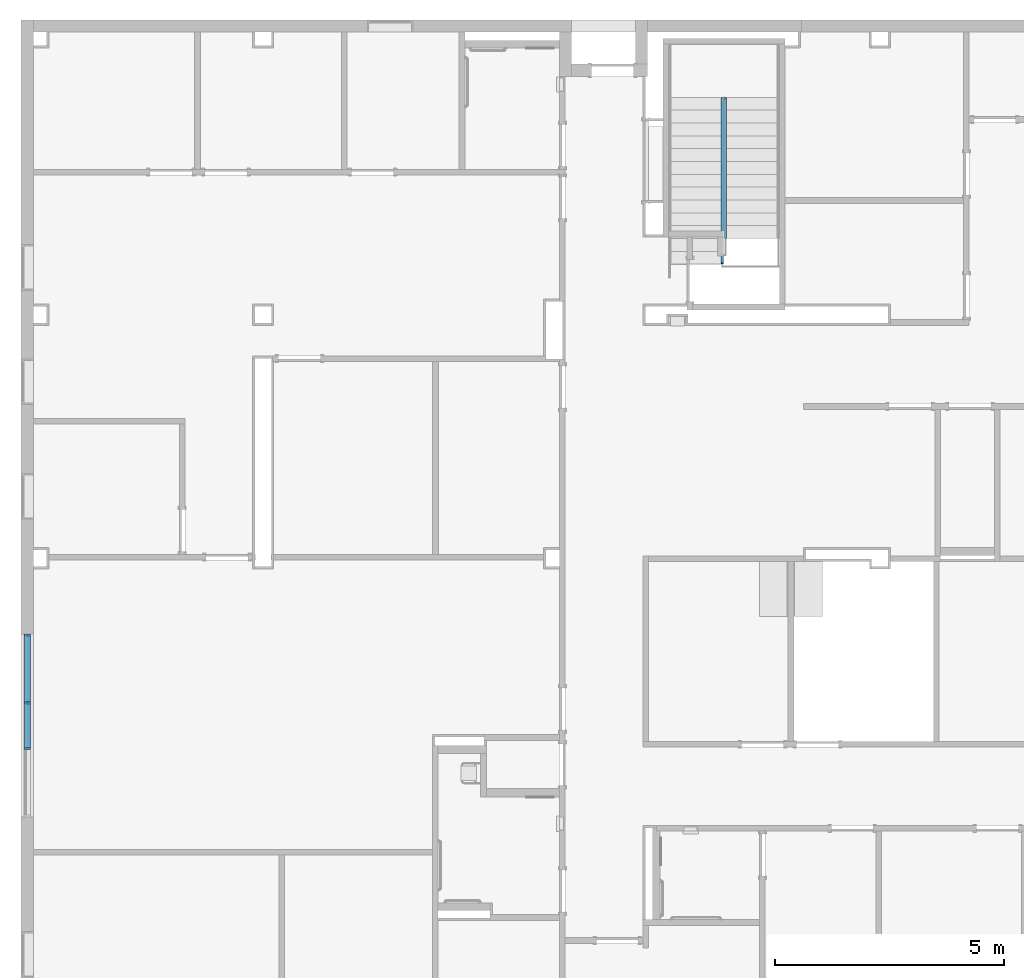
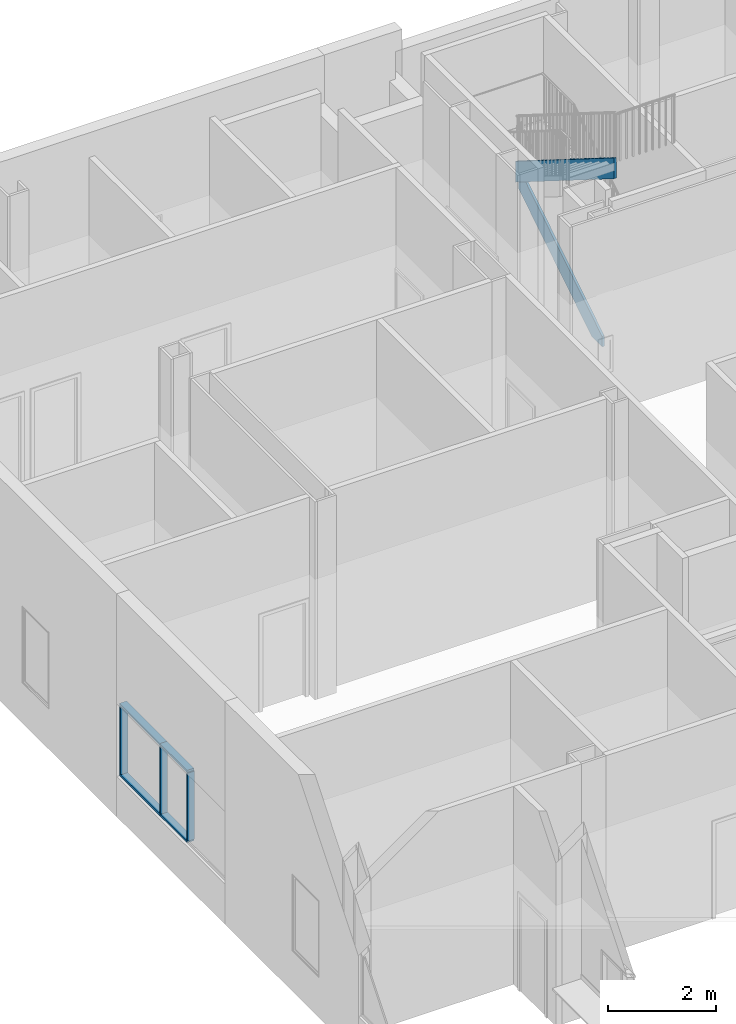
# One storey, part 7 of 82: 9 members, 2 elements without a shape of their own.
"""IFC2X3 building model written with IfcOpenShell, lengths in metres."""

from ifc_helpers import new_model, entity, si_unit, converted_unit, frame, origin, origin_2d_with_axis, place, context, project, spatial, polyline, rectangle, outline, extrude, source, transform, mapped, material, type_object, type_shapes, element, aggregate, save


model = new_model("IFC2X3")

# Units and contexts
model_context = context("Model", 3, precision=1e-09, world=origin())
plan_context = context("Plan", 3, precision=1e-09, world=origin())
ifc_project = project(units=[si_unit("LENGTHUNIT", "METRE"), si_unit("AREAUNIT", "SQUARE_METRE"), si_unit("VOLUMEUNIT", "CUBIC_METRE"), converted_unit("PLANEANGLEUNIT", "DEGREE", entity("IfcRatioMeasure", 0.01745329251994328), si_unit("PLANEANGLEUNIT", "RADIAN"), dimensions=[0, 0, 0, 0, 0, 0, 0]), si_unit("TIMEUNIT", "SECOND")], contexts=[model_context, plan_context])

# Site, building, storey
site_placement = place(None, origin())
site = spatial("IfcSite", under=ifc_project, at=site_placement, Name="Default", CompositionType="ELEMENT")
building_placement = place(site_placement, origin())
building = spatial("IfcBuilding", under=site, at=building_placement, CompositionType="ELEMENT")
storey_placement = place(building_placement, origin())
storey = spatial("IfcBuildingStorey", under=building, at=storey_placement, Name="First Floor", CompositionType="ELEMENT", Elevation=-3.531500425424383e-13)

# Curtain wall, members
curtain_wall_placement = place(storey_placement, origin())
curtain_wall = element("IfcCurtainWall", 1, at=curtain_wall_placement, inside=storey, Name="Curtain Wall:Storefront", ObjectType="Curtain Wall:Storefront")
ifc_material = material(Name="Metal - Aluminium")
member_type_1 = type_object("IfcMemberType", Name="50 x 150mm", PredefinedType="MULLION")
shared_shape_1 = source(origin(), model_context, "Body", "SweptSolid", [
    extrude(rectangle(XDim=0.05, YDim=0.15, at=origin_2d_with_axis()), frame((-0.025, 0.0, -1.499999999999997), z_axis=(0.0, 0.0, 1.0), x_axis=(-1.0, 0.0, 0.0)), (0.0, 0.0, 1.0), 1.499999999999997),
])
type_shapes(member_type_1, [shared_shape_1])
member_1_placement = place(storey_placement, frame((-52.14650000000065, 41.62995228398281, 0.905), z_axis=(0.0, -1.0, 0.0), x_axis=(0.0, 0.0, -1.0)))
member_1 = element("IfcMember", 2, at=member_1_placement, type_object=member_type_1, material=ifc_material, Name="Rectangular Mullion:50 x 150mm:50 x 150mm", ObjectType="50 x 150mm", context=model_context, shape_type="MappedRepresentation", body=[
    mapped(shared_shape_1, transform((0.0, 0.0, 0.0), scale=1.0)),
])
member_type_2 = type_object("IfcMemberType", Name="50 x 150mm", PredefinedType="MULLION")
type_shapes(member_type_2, [shared_shape_1])
member_2_placement = place(storey_placement, frame((-52.14650000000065, 43.12995228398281, 2.54), z_axis=(0.0, 1.0, 0.0), x_axis=(0.0, 0.0, 1.0)))
member_2 = element("IfcMember", 3, at=member_2_placement, type_object=member_type_2, material=ifc_material, Name="Rectangular Mullion:50 x 150mm:50 x 150mm", ObjectType="50 x 150mm", context=model_context, shape_type="MappedRepresentation", body=[
    mapped(shared_shape_1, transform((0.0, 0.0, 0.0), scale=1.0)),
])
member_type_3 = type_object("IfcMemberType", Name="50 x 150mm", PredefinedType="MULLION")
shared_shape_2 = source(origin(), model_context, "Body", "SweptSolid", [
    extrude(rectangle(XDim=0.05, YDim=0.15, at=origin_2d_with_axis()), frame((0.0, 0.0, -1.535), z_axis=(0.0, 0.0, 1.0), x_axis=(-1.0, 0.0, 0.0)), (0.0, 0.0, 1.0), 1.535),
])
type_shapes(member_type_3, [shared_shape_2])
member_3_placement = place(storey_placement, frame((-52.14650000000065, 41.62995228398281, 0.9550000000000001), z_axis=(0.0, 0.0, -1.0), x_axis=(0.0, 1.0, 0.0)))
member_3 = element("IfcMember", 4, at=member_3_placement, type_object=member_type_3, material=ifc_material, Name="Rectangular Mullion:50 x 150mm:50 x 150mm", ObjectType="50 x 150mm", context=model_context, shape_type="MappedRepresentation", body=[
    mapped(shared_shape_2, transform((0.0, 0.0, 0.0), scale=1.0)),
])
member_4_placement = place(storey_placement, frame((-52.14650000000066, 40.6299522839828, 0.9550000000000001), z_axis=(0.0, 0.0, -1.0), x_axis=(0.0, 1.0, 0.0)))
member_4 = element("IfcMember", 5, at=member_4_placement, type_object=member_type_3, material=ifc_material, Name="Rectangular Mullion:50 x 150mm:50 x 150mm", ObjectType="50 x 150mm", context=model_context, shape_type="MappedRepresentation", body=[
    mapped(shared_shape_2, transform((0.0, 0.0, 0.0), scale=1.0)),
])
member_type_4 = type_object("IfcMemberType", Name="50 x 150mm", PredefinedType="MULLION")
shared_shape_3 = source(origin(), model_context, "Body", "SweptSolid", [
    extrude(rectangle(XDim=0.05, YDim=0.15, at=origin_2d_with_axis()), frame((-0.025, 0.0, -1.535), z_axis=(0.0, 0.0, 1.0), x_axis=(-1.0, 0.0, 0.0)), (0.0, 0.0, 1.0), 1.535),
])
type_shapes(member_type_4, [shared_shape_3])
member_5_placement = place(storey_placement, frame((-52.14650000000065, 43.12995228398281, 0.9550000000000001), z_axis=(0.0, 0.0, -1.0), x_axis=(0.0, 1.0, 0.0)))
member_5 = element("IfcMember", 6, at=member_5_placement, type_object=member_type_4, material=ifc_material, Name="Rectangular Mullion:50 x 150mm:50 x 150mm", ObjectType="50 x 150mm", context=model_context, shape_type="MappedRepresentation", body=[
    mapped(shared_shape_3, transform((0.0, 0.0, 0.0), scale=1.0)),
])
member_type_5 = type_object("IfcMemberType", Name="50 x 150mm", PredefinedType="MULLION")
shared_shape_4 = source(origin(), model_context, "Body", "SweptSolid", [
    extrude(rectangle(XDim=0.05, YDim=0.15, at=origin_2d_with_axis()), frame((-0.025, 0.0, -1.0), z_axis=(0.0, 0.0, 1.0), x_axis=(-1.0, 0.0, 0.0)), (0.0, 0.0, 1.0), 1.000000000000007),
])
type_shapes(member_type_5, [shared_shape_4])
member_6_placement = place(storey_placement, frame((-52.14650000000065, 41.62995228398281, 2.54), z_axis=(0.0, 1.0, 0.0), x_axis=(0.0, 0.0, 1.0)))
member_6 = element("IfcMember", 7, at=member_6_placement, type_object=member_type_5, material=ifc_material, Name="Rectangular Mullion:50 x 150mm:50 x 150mm", ObjectType="50 x 150mm", context=model_context, shape_type="MappedRepresentation", body=[
    mapped(shared_shape_4, transform((0.0, 0.0, 0.0), scale=1.0)),
])
member_type_6 = type_object("IfcMemberType", Name="50 x 150mm", PredefinedType="MULLION")
type_shapes(member_type_6, [shared_shape_4])
member_7_placement = place(storey_placement, frame((-52.14650000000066, 40.6299522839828, 0.905), z_axis=(0.0, -1.0, 0.0), x_axis=(0.0, 0.0, -1.0)))
member_7 = element("IfcMember", 8, at=member_7_placement, type_object=member_type_6, material=ifc_material, Name="Rectangular Mullion:50 x 150mm:50 x 150mm", ObjectType="50 x 150mm", context=model_context, shape_type="MappedRepresentation", body=[
    mapped(shared_shape_4, transform((0.0, 0.0, 0.0), scale=1.0)),
])
aggregate(curtain_wall, [member_5, member_1, member_3, member_2, member_6, member_4, member_7])

# Stair, members
stair_placement = place(storey_placement, origin())
stair = element("IfcStair", 9, at=stair_placement, inside=storey, Name="Stair:Concrete Pan - 180mm Max Riser 280mm Tread", ObjectType="Stair:Concrete Pan - 180mm Max Riser 280mm Tread", ShapeType="HALF_TURN_STAIR")
member_8_placement = place(storey_placement, origin())
member_8 = element("IfcMember", 10, at=member_8_placement, Name="Stair:Concrete Pan - 180mm Max Riser 280mm Tread:1", ObjectType="stringer", context=model_context, shape_type="SweptSolid", body=[
    extrude(outline(polyline([(-1.5996960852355, -1.04050592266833), (-1.221655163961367, -1.04050592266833), (1.480303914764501, 0.655641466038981), (1.480303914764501, 1.115454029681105), (1.460439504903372, 1.115454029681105), (-1.5996960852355, -0.8055376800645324), (-1.5996960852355, -1.04050592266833)])), frame((-36.94000000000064, 53.35413415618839, 1.040505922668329), z_axis=(1.0, 0.0, 0.0), x_axis=(0.0, 1.0, 0.0)), (0.0, 0.0, 1.0), 0.05000000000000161),
])
member_9_placement = place(storey_placement, origin())
member_9 = element("IfcMember", 11, at=member_9_placement, Name="Stair:Concrete Pan - 180mm Max Riser 280mm Tread:2", ObjectType="stringer", context=model_context, shape_type="SweptSolid", body=[
    extrude(outline(polyline([(-2.472205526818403, -0.1621122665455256), (1.802110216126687, -0.1621122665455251), (1.818934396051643, -0.1515509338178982), (1.574465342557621, 0.2378877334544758), (-2.723304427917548, 0.2378877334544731), (-2.472205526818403, -0.1621122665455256)])), frame((-37.01000014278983, 52.65441095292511, 3.521298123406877), z_axis=(1.0, 0.0, 0.0), x_axis=(0.0, -0.8469509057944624, 0.531671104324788)), (0.0, 0.0, 1.0), 0.05000000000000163),
])
aggregate(stair, [member_8, member_9])

save(model, "model.ifc")
